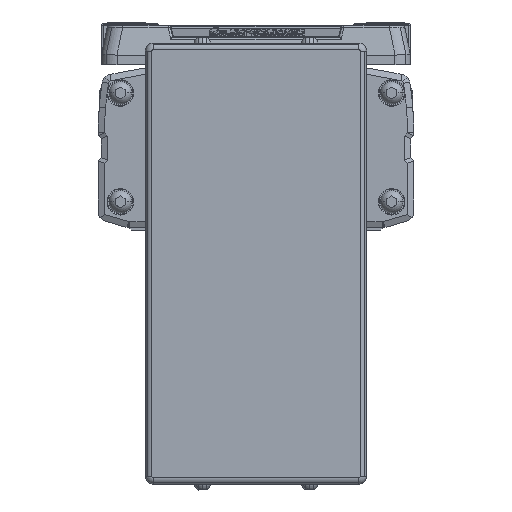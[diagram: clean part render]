
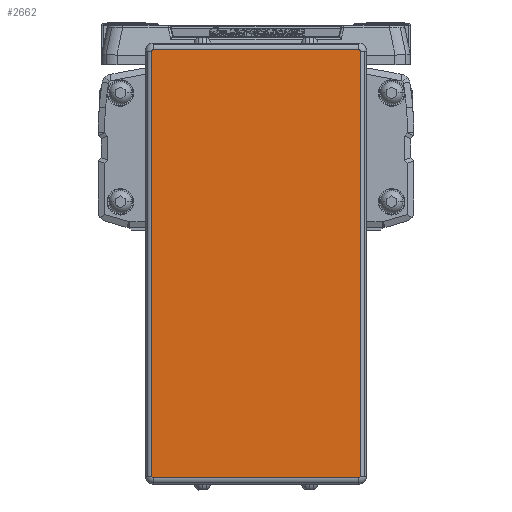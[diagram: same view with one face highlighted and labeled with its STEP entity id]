
A CAD part, left-side view. The second image highlights one B-rep face of the part: STEP entity #2662.
In plain terms, the highlighted planar face has unit normal (-1, 0, 0).
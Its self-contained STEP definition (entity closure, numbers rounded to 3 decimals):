
#2662=ADVANCED_FACE('',(#6968),#6969,.F.);
#6968=FACE_OUTER_BOUND('',#13381,.T.);
#6969=PLANE('',#13382);
#13381=EDGE_LOOP('',(#20909,#20910,#20911,#20912,#20913,#20914,#20915,#20916));
#13382=AXIS2_PLACEMENT_3D('',#20917,#20918,#20919);
#20909=ORIENTED_EDGE('',*,*,#38413,.T.);
#20910=ORIENTED_EDGE('',*,*,#38414,.T.);
#20911=ORIENTED_EDGE('',*,*,#38415,.T.);
#20912=ORIENTED_EDGE('',*,*,#37942,.T.);
#20913=ORIENTED_EDGE('',*,*,#38416,.T.);
#20914=ORIENTED_EDGE('',*,*,#38417,.T.);
#20915=ORIENTED_EDGE('',*,*,#38418,.T.);
#20916=ORIENTED_EDGE('',*,*,#38419,.T.);
#20917=CARTESIAN_POINT('',(-616.0,0.,-41.6));
#20918=DIRECTION('',(1.0,0.,0.));
#20919=DIRECTION('',(0.,0.,1.0));
#37942=EDGE_CURVE('',#45362,#45359,#45363,.T.);
#38413=EDGE_CURVE('',#46186,#46187,#46188,.T.);
#38414=EDGE_CURVE('',#46187,#46189,#46190,.T.);
#38415=EDGE_CURVE('',#46189,#45362,#46191,.T.);
#38416=EDGE_CURVE('',#45359,#46192,#46193,.T.);
#38417=EDGE_CURVE('',#46192,#46194,#46195,.T.);
#38418=EDGE_CURVE('',#46194,#46196,#46197,.T.);
#38419=EDGE_CURVE('',#46196,#46186,#46198,.T.);
#45359=VERTEX_POINT('',#56035);
#45362=VERTEX_POINT('',#56038);
#45363=CIRCLE('',#56039,0.5);
#46186=VERTEX_POINT('',#57170);
#46187=VERTEX_POINT('',#57171);
#46188=LINE('',#57172,#57173);
#46189=VERTEX_POINT('',#57174);
#46190=CIRCLE('',#57175,0.5);
#46191=LINE('',#57176,#57177);
#46192=VERTEX_POINT('',#57178);
#46193=LINE('',#57179,#57180);
#46194=VERTEX_POINT('',#57181);
#46195=CIRCLE('',#57182,0.5);
#46196=VERTEX_POINT('',#57183);
#46197=LINE('',#57184,#57185);
#46198=CIRCLE('',#57186,0.5);
#56035=CARTESIAN_POINT('',(-616.,33.05,25.8));
#56038=CARTESIAN_POINT('',(-616.,32.55,26.3));
#56039=AXIS2_PLACEMENT_3D('',#69689,#69690,#69691);
#57170=CARTESIAN_POINT('',(-616.0,-33.05,-109.));
#57171=CARTESIAN_POINT('',(-616.,-33.05,25.8));
#57172=CARTESIAN_POINT('',(-616.,-33.05,-41.6));
#57173=VECTOR('',#70328,10.0);
#57174=CARTESIAN_POINT('',(-616.,-32.55,26.3));
#57175=AXIS2_PLACEMENT_3D('',#70329,#70330,#70331);
#57176=CARTESIAN_POINT('',(-616.,0.,26.3));
#57177=VECTOR('',#70332,10.0);
#57178=CARTESIAN_POINT('',(-616.0,33.05,-109.));
#57179=CARTESIAN_POINT('',(-616.0,33.05,-41.6));
#57180=VECTOR('',#70333,10.0);
#57181=CARTESIAN_POINT('',(-616.0,32.55,-109.5));
#57182=AXIS2_PLACEMENT_3D('',#70334,#70335,#70336);
#57183=CARTESIAN_POINT('',(-616.0,-32.55,-109.5));
#57184=CARTESIAN_POINT('',(-616.0,0.,-109.5));
#57185=VECTOR('',#70337,10.0);
#57186=AXIS2_PLACEMENT_3D('',#70338,#70339,#70340);
#69689=CARTESIAN_POINT('',(-616.,32.55,25.8));
#69690=DIRECTION('',(-1.0,0.,0.));
#69691=DIRECTION('',(0.,0.707,0.707));
#70328=DIRECTION('',(0.,0.,1.0));
#70329=CARTESIAN_POINT('',(-616.,-32.55,25.8));
#70330=DIRECTION('',(-1.0,0.,0.));
#70331=DIRECTION('',(0.,-0.707,0.707));
#70332=DIRECTION('',(0.,1.0,0.));
#70333=DIRECTION('',(0.,0.,-1.0));
#70334=CARTESIAN_POINT('',(-616.0,32.55,-109.));
#70335=DIRECTION('',(-1.0,0.,0.));
#70336=DIRECTION('',(0.,0.707,-0.707));
#70337=DIRECTION('',(0.,-1.0,0.));
#70338=CARTESIAN_POINT('',(-616.0,-32.55,-109.));
#70339=DIRECTION('',(-1.0,0.,0.));
#70340=DIRECTION('',(0.,-0.707,-0.707));
